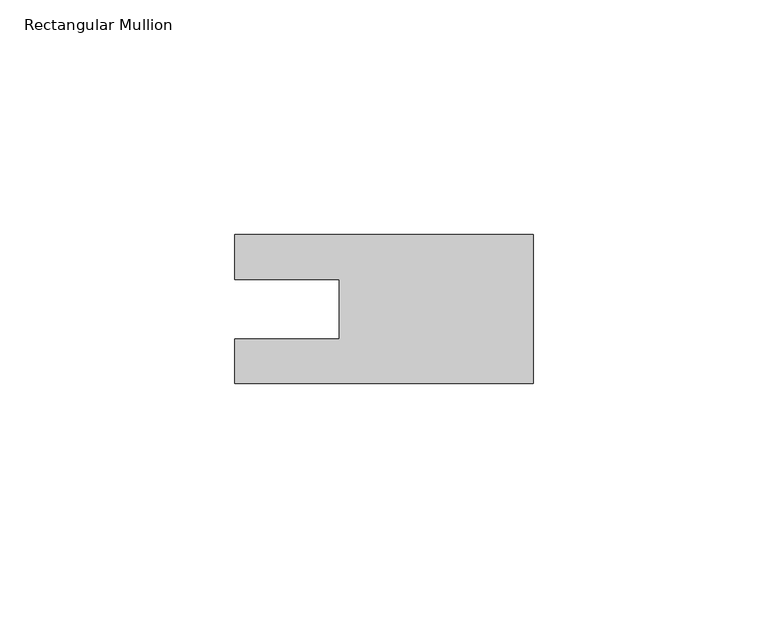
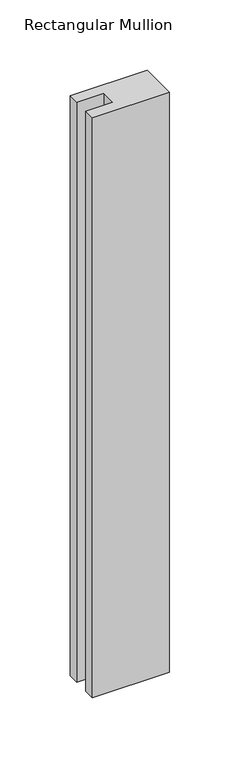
"""IFC4 building model written with IfcOpenShell, lengths in millimetres: member geometry, Rectangular Mullion : Melius SG Top Rail."""

from ifc_helpers import new_model, si_unit, frame, origin, place, context, project, spatial, polyline, outline, extrude, source, transform, mapped, element, save


def rectangular_mullion_84a1802e(model_context):
    return source(origin(), model_context, "Body", "SweptSolid", [
        extrude(outline(polyline([(-63.5, -15.875), (-63.5, -6.35), (-41.275, -6.35), (-41.275, 6.35), (-63.5, 6.35), (-63.5, 15.875), (0.0, 15.875), (0.0, -15.875), (-63.5, -15.875)])), frame((0.0, 0.0, -505.2255826), z_axis=(0.0, 0.0, 1.0), x_axis=(1.0, 0.0, 0.0)), (0.0, 0.0, 1.0), 505.2255826),
    ])


if __name__ == "__main__":
    model = new_model("IFC4")
    model_context = context("Model", 3, world=origin())
    ifc_project = project(units=[si_unit("LENGTHUNIT", "METRE", prefix="MILLI")], contexts=[model_context])
    site = spatial("IfcSite", under=ifc_project)
    building = spatial("IfcBuilding", under=site)
    placement = place(None, origin())
    rectangular_mullion_shape = rectangular_mullion_84a1802e(model_context)
    element("IfcMember", 1, ObjectType="Rectangular Mullion : Melius SG Top Rail", at=placement, inside=building, context=model_context, shape_type="MappedRepresentation", body=[
        mapped(rectangular_mullion_shape, transform((0.0, 0.0, 0.0), x_axis=(1.0, 0.0, 0.0), y_axis=(0.0, 1.0, 0.0), z_axis=(0.0, 0.0, 1.0))),
    ])
    save(model, "model.ifc")
